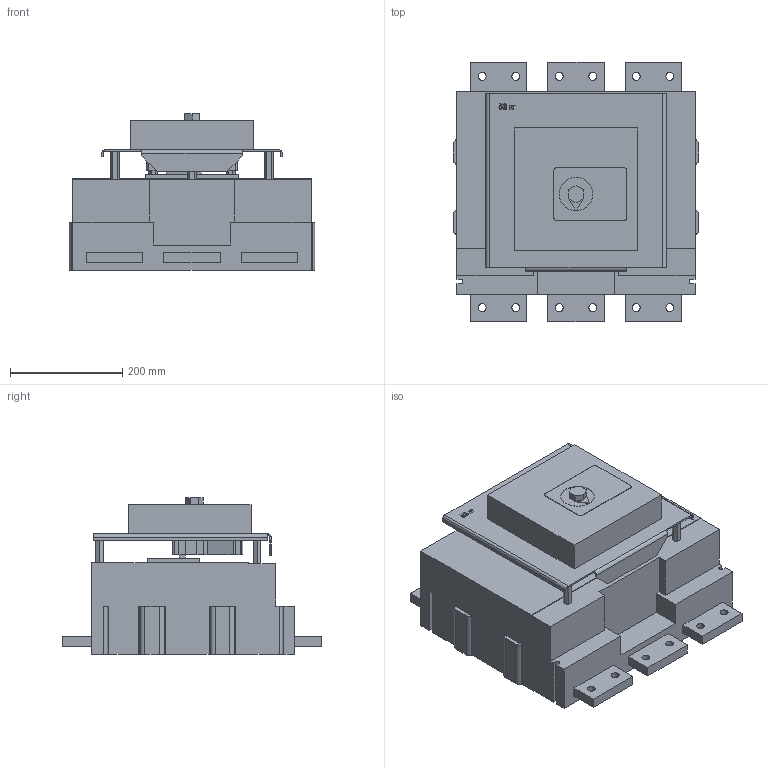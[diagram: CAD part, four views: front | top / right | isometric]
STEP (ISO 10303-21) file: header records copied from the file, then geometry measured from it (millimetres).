
FILE_DESCRIPTION (( 'STEP AP214' ), '1' );
FILE_NAME ('ÂÀ 56-43 ñ ýëåêòðîìàãíèòíûì ïðèâîäîì 1600À.STEP', '2023-02-13T06:25:05', ( '' ), ( '' ), 'SwSTEP 2.0', 'SolidWorks 2018', '' );
FILE_SCHEMA (( 'AUTOMOTIVE_DESIGN' ));
Length unit declared in the file: millimetre
Products named in the file (1): ÂÀ 56-43 ñ ýëåêòðîìàãíèòíûì ïðèâîäîì 1600À
Bounding box: 438 x 462.5 x 279.3 mm (x, y, z)
Volume: 27639205.3 mm3; surface area: 963318.3 mm2
Topology: 1 solids, 1 shells, 251 faces, 746 edges, 515 vertices
Faces by surface type: plane 199, cylinder 52
Full cylindrical faces by diameter (mm): 14 x12, 60 x1
Entity records: 8847 total; most frequent: CARTESIAN_POINT 1918, ORIENTED_EDGE 1466, DIRECTION 1311, EDGE_CURVE 733, VECTOR 599, LINE 599, VERTEX_POINT 515, AXIS2_PLACEMENT_3D 356
